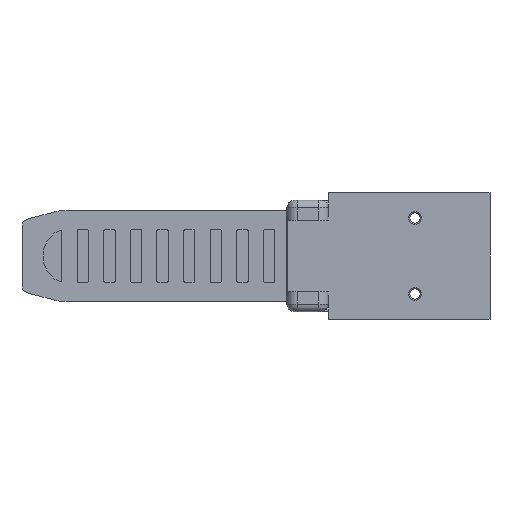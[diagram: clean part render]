
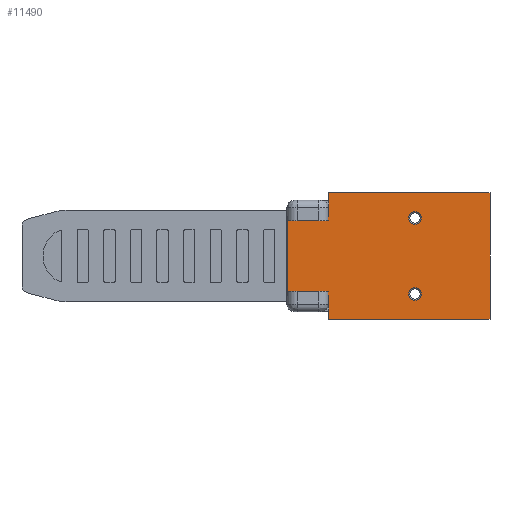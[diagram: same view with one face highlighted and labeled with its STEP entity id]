
A CAD part, front view. The second image highlights one B-rep face of the part: STEP entity #11490.
In plain terms, the highlighted planar face has unit normal (0, -1, 0).
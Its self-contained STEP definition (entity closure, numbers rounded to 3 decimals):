
#53 = VECTOR ( 'NONE', #1165, 1000. ) ;
#91 = ORIENTED_EDGE ( 'NONE', *, *, #2940, .T. ) ;
#291 = DIRECTION ( 'NONE',  ( -1., 0., 0. ) ) ;
#312 = VERTEX_POINT ( 'NONE', #9598 ) ;
#542 = ORIENTED_EDGE ( 'NONE', *, *, #11761, .F. ) ;
#621 = DIRECTION ( 'NONE',  ( 0., 0., 1. ) ) ;
#691 = CARTESIAN_POINT ( 'NONE',  ( -14.2, -5., -7.8 ) ) ;
#763 = FACE_BOUND ( 'NONE', #14526, .T. ) ;
#775 = CARTESIAN_POINT ( 'NONE',  ( -14.2, -5., -12.5 ) ) ;
#960 = ORIENTED_EDGE ( 'NONE', *, *, #1148, .F. ) ;
#1148 = EDGE_CURVE ( 'NONE', #7640, #15396, #9460, .T. ) ;
#1165 = DIRECTION ( 'NONE',  ( 0., 0., -1. ) ) ;
#1222 = CARTESIAN_POINT ( 'NONE',  ( -14.2, -5., 12.5 ) ) ;
#1603 = VECTOR ( 'NONE', #11910, 1000. ) ;
#1640 = CARTESIAN_POINT ( 'NONE',  ( -14.2, -5., -7.8 ) ) ;
#1776 = ORIENTED_EDGE ( 'NONE', *, *, #12646, .F. ) ;
#1838 = EDGE_CURVE ( 'NONE', #13815, #7502, #13225, .T. ) ;
#2428 = LINE ( 'NONE', #8056, #11843 ) ;
#2451 = ORIENTED_EDGE ( 'NONE', *, *, #1838, .T. ) ;
#2834 = VECTOR ( 'NONE', #12409, 1000. ) ;
#2940 = EDGE_CURVE ( 'NONE', #6350, #5997, #7002, .T. ) ;
#3370 = LINE ( 'NONE', #6691, #15723 ) ;
#3489 = LINE ( 'NONE', #5188, #6804 ) ;
#3650 = EDGE_CURVE ( 'NONE', #7059, #7502, #12869, .T. ) ;
#3933 = CIRCLE ( 'NONE', #9684, 1.25 ) ;
#3991 = EDGE_CURVE ( 'NONE', #12020, #4975, #10491, .T. ) ;
#4185 = DIRECTION ( 'NONE',  ( 0., 1., 0. ) ) ;
#4635 = ORIENTED_EDGE ( 'NONE', *, *, #4707, .T. ) ;
#4636 = FACE_OUTER_BOUND ( 'NONE', #14711, .T. ) ;
#4707 = EDGE_CURVE ( 'NONE', #7059, #6571, #3489, .T. ) ;
#4958 = CARTESIAN_POINT ( 'NONE',  ( -14.2, -5., 12.5 ) ) ;
#4975 = VERTEX_POINT ( 'NONE', #10913 ) ;
#5121 = AXIS2_PLACEMENT_3D ( 'NONE', #13816, #6680, #14973 ) ;
#5188 = CARTESIAN_POINT ( 'NONE',  ( -6., -5., 12.5 ) ) ;
#5216 = CARTESIAN_POINT ( 'NONE',  ( 11., -5., -8.75 ) ) ;
#5520 = DIRECTION ( 'NONE',  ( 1., 0., 0. ) ) ;
#5878 = EDGE_CURVE ( 'NONE', #4975, #12020, #12032, .T. ) ;
#5945 = DIRECTION ( 'NONE',  ( 1., 0., 0. ) ) ;
#5997 = VERTEX_POINT ( 'NONE', #11757 ) ;
#6222 = DIRECTION ( 'NONE',  ( 0., 0., 1. ) ) ;
#6350 = VERTEX_POINT ( 'NONE', #5216 ) ;
#6437 = DIRECTION ( 'NONE',  ( 0., 0., -1. ) ) ;
#6571 = VERTEX_POINT ( 'NONE', #10772 ) ;
#6680 = DIRECTION ( 'NONE',  ( 0., 1., 0. ) ) ;
#6691 = CARTESIAN_POINT ( 'NONE',  ( -14.2, -5., 7.8 ) ) ;
#6804 = VECTOR ( 'NONE', #6437, 1000. ) ;
#7002 = CIRCLE ( 'NONE', #11948, 1.25 ) ;
#7059 = VERTEX_POINT ( 'NONE', #15430 ) ;
#7210 = CARTESIAN_POINT ( 'NONE',  ( -6., -5., 12.5 ) ) ;
#7239 = CARTESIAN_POINT ( 'NONE',  ( -14.2, -5., 7.8 ) ) ;
#7484 = ORIENTED_EDGE ( 'NONE', *, *, #10387, .T. ) ;
#7502 = VERTEX_POINT ( 'NONE', #1640 ) ;
#7640 = VERTEX_POINT ( 'NONE', #7210 ) ;
#7719 = CARTESIAN_POINT ( 'NONE',  ( 25.8, -5., 12.5 ) ) ;
#7760 = CARTESIAN_POINT ( 'NONE',  ( 11., -5., 8.75 ) ) ;
#7955 = ORIENTED_EDGE ( 'NONE', *, *, #8495, .T. ) ;
#8056 = CARTESIAN_POINT ( 'NONE',  ( 25.8, -5., 12.5 ) ) ;
#8274 = DIRECTION ( 'NONE',  ( 0., 1., 0. ) ) ;
#8495 = EDGE_CURVE ( 'NONE', #7640, #14873, #14546, .T. ) ;
#8917 = VECTOR ( 'NONE', #5945, 1000. ) ;
#9416 = VECTOR ( 'NONE', #291, 1000. ) ;
#9460 = LINE ( 'NONE', #12659, #2834 ) ;
#9592 = ORIENTED_EDGE ( 'NONE', *, *, #3991, .T. ) ;
#9598 = CARTESIAN_POINT ( 'NONE',  ( 25.8, -5., -12.5 ) ) ;
#9684 = AXIS2_PLACEMENT_3D ( 'NONE', #11514, #4185, #12670 ) ;
#9950 = DIRECTION ( 'NONE',  ( 0., 1., 0. ) ) ;
#10052 = CARTESIAN_POINT ( 'NONE',  ( 11., -5., -7.5 ) ) ;
#10387 = EDGE_CURVE ( 'NONE', #5997, #6350, #3933, .T. ) ;
#10491 = CIRCLE ( 'NONE', #13788, 1.25 ) ;
#10493 = AXIS2_PLACEMENT_3D ( 'NONE', #4958, #13370, #6222 ) ;
#10558 = CARTESIAN_POINT ( 'NONE',  ( -6., -5., 7.8 ) ) ;
#10741 = CARTESIAN_POINT ( 'NONE',  ( -6., -5., 12.5 ) ) ;
#10772 = CARTESIAN_POINT ( 'NONE',  ( -6., -5., -12.5 ) ) ;
#10913 = CARTESIAN_POINT ( 'NONE',  ( 11., -5., 6.25 ) ) ;
#11490 = ADVANCED_FACE ( 'NONE', ( #763, #13846, #4636 ), #14465, .F. ) ;
#11514 = CARTESIAN_POINT ( 'NONE',  ( 11., -5., -7.5 ) ) ;
#11757 = CARTESIAN_POINT ( 'NONE',  ( 11., -5., -6.25 ) ) ;
#11761 = EDGE_CURVE ( 'NONE', #15396, #312, #2428, .T. ) ;
#11843 = VECTOR ( 'NONE', #15073, 1000. ) ;
#11910 = DIRECTION ( 'NONE',  ( 0., 0., -1. ) ) ;
#11948 = AXIS2_PLACEMENT_3D ( 'NONE', #10052, #9950, #13247 ) ;
#12020 = VERTEX_POINT ( 'NONE', #7760 ) ;
#12032 = CIRCLE ( 'NONE', #5121, 1.25 ) ;
#12231 = ORIENTED_EDGE ( 'NONE', *, *, #3650, .F. ) ;
#12384 = ORIENTED_EDGE ( 'NONE', *, *, #5878, .T. ) ;
#12398 = LINE ( 'NONE', #775, #8917 ) ;
#12409 = DIRECTION ( 'NONE',  ( 1., 0., 0. ) ) ;
#12646 = EDGE_CURVE ( 'NONE', #13815, #14873, #3370, .T. ) ;
#12659 = CARTESIAN_POINT ( 'NONE',  ( -14.2, -5., 12.5 ) ) ;
#12670 = DIRECTION ( 'NONE',  ( 0., 0., 1. ) ) ;
#12869 = LINE ( 'NONE', #691, #9416 ) ;
#13225 = LINE ( 'NONE', #1222, #53 ) ;
#13247 = DIRECTION ( 'NONE',  ( 0., 0., 1. ) ) ;
#13370 = DIRECTION ( 'NONE',  ( 0., 1., 0. ) ) ;
#13788 = AXIS2_PLACEMENT_3D ( 'NONE', #15263, #8274, #621 ) ;
#13815 = VERTEX_POINT ( 'NONE', #7239 ) ;
#13816 = CARTESIAN_POINT ( 'NONE',  ( 11., -5., 7.5 ) ) ;
#13846 = FACE_BOUND ( 'NONE', #14547, .T. ) ;
#14243 = EDGE_CURVE ( 'NONE', #6571, #312, #12398, .T. ) ;
#14465 = PLANE ( 'NONE',  #10493 ) ;
#14526 = EDGE_LOOP ( 'NONE', ( #7484, #91 ) ) ;
#14546 = LINE ( 'NONE', #10741, #1603 ) ;
#14547 = EDGE_LOOP ( 'NONE', ( #9592, #12384 ) ) ;
#14711 = EDGE_LOOP ( 'NONE', ( #12231, #4635, #15546, #542, #960, #7955, #1776, #2451 ) ) ;
#14873 = VERTEX_POINT ( 'NONE', #10558 ) ;
#14973 = DIRECTION ( 'NONE',  ( 0., 0., 1. ) ) ;
#15073 = DIRECTION ( 'NONE',  ( 0., 0., -1. ) ) ;
#15263 = CARTESIAN_POINT ( 'NONE',  ( 11., -5., 7.5 ) ) ;
#15396 = VERTEX_POINT ( 'NONE', #7719 ) ;
#15430 = CARTESIAN_POINT ( 'NONE',  ( -6., -5., -7.8 ) ) ;
#15546 = ORIENTED_EDGE ( 'NONE', *, *, #14243, .T. ) ;
#15723 = VECTOR ( 'NONE', #5520, 1000. ) ;
